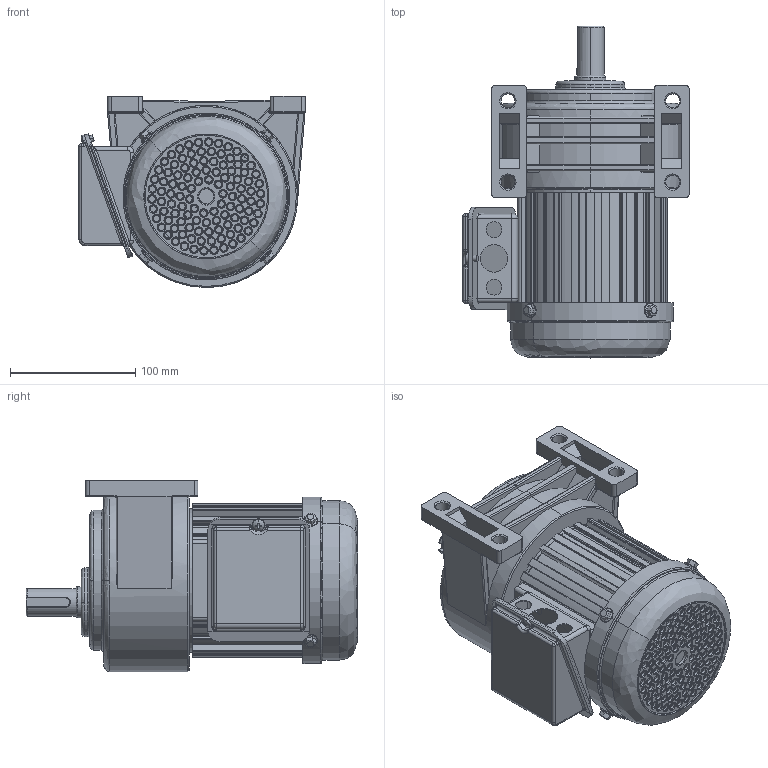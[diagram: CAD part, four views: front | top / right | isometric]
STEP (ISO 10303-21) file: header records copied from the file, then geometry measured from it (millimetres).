
FILE_DESCRIPTION (( 'STEP AP203' ), '1' );
FILE_NAME ('单相100W2#卧式.STEP', '2015-10-23T00:43:32', ( '微软中国' ), ( '微软用户' ), 'SwSTEP 2.0', 'SolidWorks 2009', '' );
FILE_SCHEMA (( 'CONFIG_CONTROL_DESIGN' ));
Products named in the file (11): 100W瑞欶; Hex Flange Bolts-Heavy Grade B GB_GB_FASTENER_BOLT_HFBB M5X10-N; Cross recessed pan head screws GB_GB_CROSS_SCREWS_TYPE1 M5X6-6  H type-N; 等眈100W2#拏宒; 100W儂褲; 100W綴裔; 瑞欶盓殤; 2#拏宒熬厒ん; 蚾饜极3; 等眈100W諉盄碟釱; 等眈100W諉盄碟裔
Assembly tree (16 placements, depth 3):
  等眈100W2#拏宒
    瑞欶盓殤  x4
    Hex Flange Bolts-Heavy Grade B GB_GB_FASTENER_BOLT_HFBB M5X10-N  x4
    2#拏宒熬厒ん
    蚾饜极3
      Cross recessed pan head screws GB_GB_CROSS_SCREWS_TYPE1 M5X6-6  H type-N
      等眈100W諉盄碟裔
      等眈100W諉盄碟釱
    100W瑞欶
    100W儂褲
    100W綴裔
Bounding box: 180.9 x 265.5 x 153 mm (x, y, z)
Volume: 1865639.5 mm3; surface area: 342539.9 mm2
Topology: 15 solids, 15 shells, 1632 faces, 4268 edges, 2662 vertices
Faces by surface type: bspline 692, cylinder 543, plane 337, torus 30, cone 24, sphere 6
Entity records: 62024 total; most frequent: CARTESIAN_POINT 24821, ORIENTED_EDGE 7968, DIRECTION 7245, EDGE_CURVE 3984, AXIS2_PLACEMENT_3D 2933, VERTEX_POINT 2500, CIRCLE 2072, EDGE_LOOP 1806
